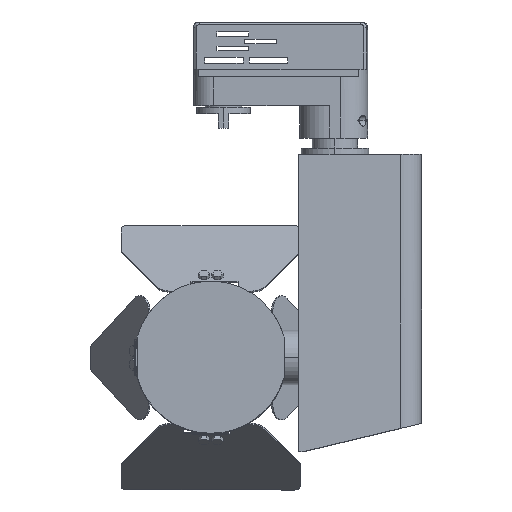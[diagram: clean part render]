
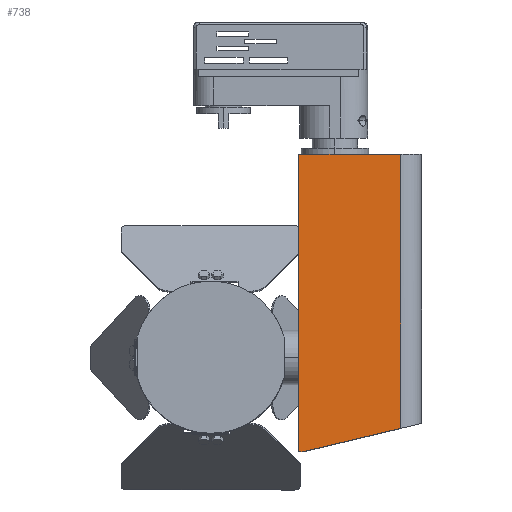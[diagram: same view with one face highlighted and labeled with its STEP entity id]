
A CAD part, top view. The second image highlights one B-rep face of the part: STEP entity #738.
In plain terms, the highlighted planar face has unit normal (0.037, 0, 0.999).
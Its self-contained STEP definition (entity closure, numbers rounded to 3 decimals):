
#308 = DIRECTION ( 'NONE',  ( -0.999, 0., 0.037 ) ) ;
#738 = ADVANCED_FACE ( 'NONE', ( #12020 ), #6589, .F. ) ;
#759 = EDGE_LOOP ( 'NONE', ( #10864, #7625, #15269, #1330, #2379 ) ) ;
#1043 = VERTEX_POINT ( 'NONE', #9088 ) ;
#1322 = DIRECTION ( 'NONE',  ( 0., 1., 0. ) ) ;
#1330 = ORIENTED_EDGE ( 'NONE', *, *, #14335, .T. ) ;
#1529 = LINE ( 'NONE', #7555, #16089 ) ;
#1597 = CARTESIAN_POINT ( 'NONE',  ( 9.3, -52., 37.945 ) ) ;
#1665 = CARTESIAN_POINT ( 'NONE',  ( 77.008, -52., 35.448 ) ) ;
#2074 = CARTESIAN_POINT ( 'NONE',  ( 15.954, -51.008, 37.7 ) ) ;
#2267 = VERTEX_POINT ( 'NONE', #15701 ) ;
#2278 = LINE ( 'NONE', #1665, #13080 ) ;
#2379 = ORIENTED_EDGE ( 'NONE', *, *, #11962, .F. ) ;
#2554 = CARTESIAN_POINT ( 'NONE',  ( 9.3, -101.8, 37.945 ) ) ;
#3097 = DIRECTION ( 'NONE',  ( -0.999, 0., 0.037 ) ) ;
#3822 = CARTESIAN_POINT ( 'NONE',  ( 65.542, -101.8, 35.871 ) ) ;
#5382 = LINE ( 'NONE', #1597, #13729 ) ;
#6589 = PLANE ( 'NONE',  #8155 ) ;
#7104 = EDGE_CURVE ( 'NONE', #9048, #2267, #9147, .T. ) ;
#7555 = CARTESIAN_POINT ( 'NONE',  ( 9.3, 112., 37.945 ) ) ;
#7625 = ORIENTED_EDGE ( 'NONE', *, *, #7104, .T. ) ;
#7779 = CARTESIAN_POINT ( 'NONE',  ( 9.3, -52., 37.945 ) ) ;
#8155 = AXIS2_PLACEMENT_3D ( 'NONE', #2554, #10951, #18003 ) ;
#8287 = CARTESIAN_POINT ( 'NONE',  ( 65.542, -39.161, 35.871 ) ) ;
#9048 = VERTEX_POINT ( 'NONE', #8287 ) ;
#9088 = CARTESIAN_POINT ( 'NONE',  ( 9.3, 112., 37.945 ) ) ;
#9147 = LINE ( 'NONE', #3822, #9468 ) ;
#9468 = VECTOR ( 'NONE', #1322, 1000. ) ;
#10864 = ORIENTED_EDGE ( 'NONE', *, *, #11106, .F. ) ;
#10951 = DIRECTION ( 'NONE',  ( -0.037, 0., -0.999 ) ) ;
#11085 = VERTEX_POINT ( 'NONE', #7779 ) ;
#11106 = EDGE_CURVE ( 'NONE', #9048, #13701, #16844, .T. ) ;
#11962 = EDGE_CURVE ( 'NONE', #13701, #11085, #2278, .T. ) ;
#12020 = FACE_OUTER_BOUND ( 'NONE', #759, .T. ) ;
#12852 = CARTESIAN_POINT ( 'NONE',  ( 11.8, -52., 37.853 ) ) ;
#13080 = VECTOR ( 'NONE', #308, 1000. ) ;
#13701 = VERTEX_POINT ( 'NONE', #12852 ) ;
#13729 = VECTOR ( 'NONE', #17050, 1000. ) ;
#13780 = EDGE_CURVE ( 'NONE', #2267, #1043, #1529, .T. ) ;
#14335 = EDGE_CURVE ( 'NONE', #1043, #11085, #5382, .T. ) ;
#14586 = DIRECTION ( 'NONE',  ( -0.972, -0.232, 0.036 ) ) ;
#15269 = ORIENTED_EDGE ( 'NONE', *, *, #13780, .T. ) ;
#15701 = CARTESIAN_POINT ( 'NONE',  ( 65.542, 112., 35.871 ) ) ;
#16089 = VECTOR ( 'NONE', #3097, 1000. ) ;
#16844 = LINE ( 'NONE', #2074, #18168 ) ;
#17050 = DIRECTION ( 'NONE',  ( 0., -1., 0. ) ) ;
#18003 = DIRECTION ( 'NONE',  ( -0.999, 0., 0.037 ) ) ;
#18168 = VECTOR ( 'NONE', #14586, 1000. ) ;
